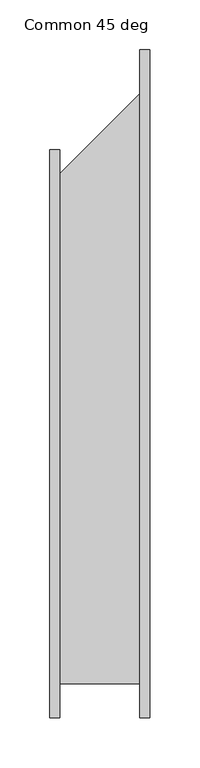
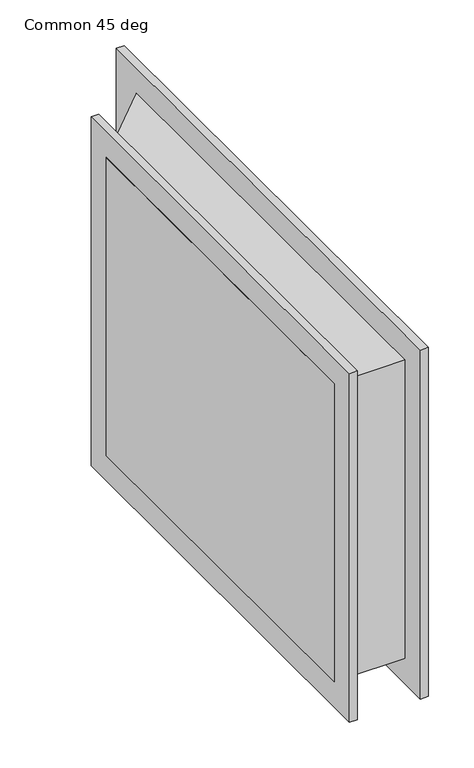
"""IFC4 building model written with IfcOpenShell, lengths in millimetres: duct fitting geometry, 041_角型置換 - フランジ - 角度 : Common 45 deg."""

from ifc_helpers import new_model, si_unit, frame, origin, place, context, project, spatial, polyline, outline, extrude, source, transform, mapped, element, save


def common_45_deg_28c74dc1(model_context):
    return source(origin(), model_context, "Body", "SweptSolid", [
        extrude(outline(polyline([(0.0, -250.0), (0.0, 250.0), (100.0, 350.0), (100.0, -250.0), (0.0, -250.0)])), frame((0.0, 0.0, -200.0), z_axis=(0.0, 0.0, 1.0), x_axis=(1.0, 0.0, 0.0)), (0.0, 0.0, 1.0), 400.0),
        extrude(outline(polyline([(100.0, 384.0), (100.0, -284.0), (90.0, -284.0), (90.0, 384.0), (100.0, 384.0)])), frame((0.0, 0.0, -234.0), z_axis=(0.0, 0.0, 1.0), x_axis=(1.0, 0.0, 0.0)), (0.0, 0.0, 1.0), 468.0),
        extrude(outline(polyline([(10.0, 284.0), (10.0, -284.0), (0.0, -284.0), (0.0, 284.0), (10.0, 284.0)])), frame((0.0, 0.0, -234.0), z_axis=(0.0, 0.0, 1.0), x_axis=(1.0, 0.0, 0.0)), (0.0, 0.0, 1.0), 468.0),
    ])


if __name__ == "__main__":
    model = new_model("IFC4")
    model_context = context("Model", 3, world=origin())
    ifc_project = project(units=[si_unit("LENGTHUNIT", "METRE", prefix="MILLI")], contexts=[model_context])
    site = spatial("IfcSite", under=ifc_project)
    building = spatial("IfcBuilding", under=site)
    placement = place(None, origin())
    common_45_deg_shape = common_45_deg_28c74dc1(model_context)
    element("IfcDuctFitting", 1, ObjectType="041_角型置換 - フランジ - 角度 : Common 45 deg", at=placement, inside=building, context=model_context, shape_type="MappedRepresentation", body=[
        mapped(common_45_deg_shape, transform((0.0, 0.0, 0.0), x_axis=(1.0, 0.0, 0.0), y_axis=(0.0, 1.0, 0.0), z_axis=(0.0, 0.0, 1.0))),
    ])
    save(model, "model.ifc")
